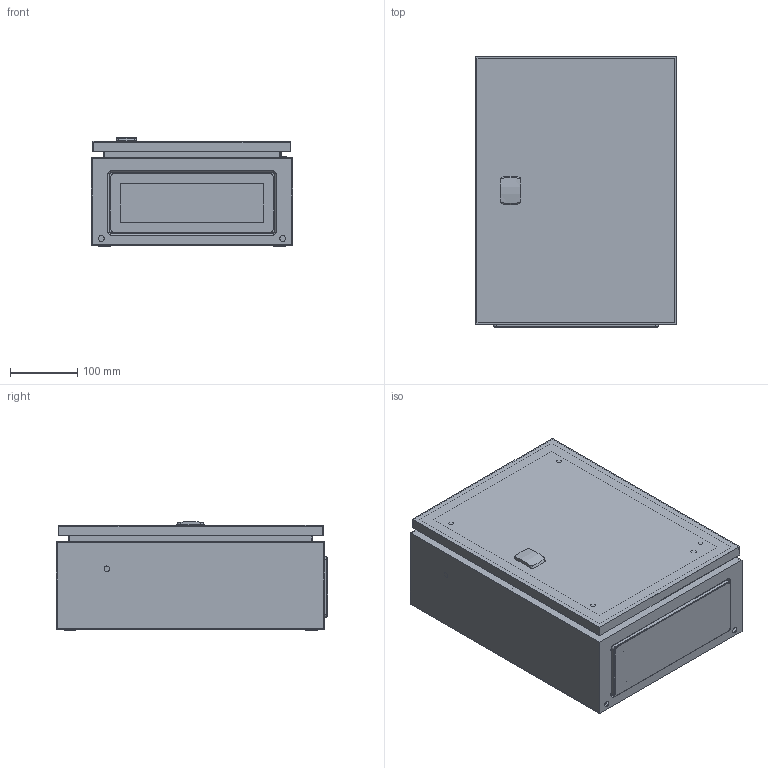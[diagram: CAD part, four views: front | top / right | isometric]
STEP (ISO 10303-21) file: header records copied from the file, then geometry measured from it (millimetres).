
FILE_DESCRIPTION( ( 'STEP AP214' ), '1' );
FILE_NAME( 'p:/temp/worker_139/temp/exporttempdir_5004_7_WMfOc/format_0/MAS0403015R5(0).stp', '2021-03-15T19:33:57', ( 'License CC BY-ND 4.0' ), ( 'CADENAS' ), ' ', 'PARTsolutions', ' ' );
FILE_SCHEMA( ( 'AUTOMOTIVE_DESIGN { 1 0 10303 214 1 1 1 1 }' ) );
Length unit declared in the file: millimetre
Products named in the file (8): MAS0403015R5(0); _MAS0403015(0); _MMSH06SS(0)_right; _ADP04030R5(0); _ALL503(0,0); _AMP04030_MPL(0); _AF01SR5_GP(0); _AG01S_GPG(0)
Assembly tree (8 placements, depth 2):
  MAS0403015R5(0)
    _MAS0403015(0)
    _MMSH06SS(0)_right  x2
    _ADP04030R5(0)
    _ALL503(0,0)
    _AMP04030_MPL(0)
    _AF01SR5_GP(0)
    _AG01S_GPG(0)
Bounding box: 300 x 404.2 x 162.67 mm (x, y, z)
Volume: 997263.5 mm3; surface area: 1247253.5 mm2
Topology: 8 solids, 8 shells, 369 faces, 876 edges, 570 vertices
Faces by surface type: plane 237, cylinder 84, cone 47, torus 1
Full cylindrical faces by diameter (mm): 4.9 x2, 6 x4, 7 x4, 8 x7, 8.5 x4, 8.7 x2, 9 x2, 14 x7, 18 x1, 27 x1
Entity records: 12555 total; most frequent: CARTESIAN_POINT 1754, DIRECTION 1653, ORIENTED_EDGE 1484, EDGE_CURVE 742, AXIS2_PLACEMENT_3D 581, VERTEX_POINT 524, LINE 491, VECTOR 491
